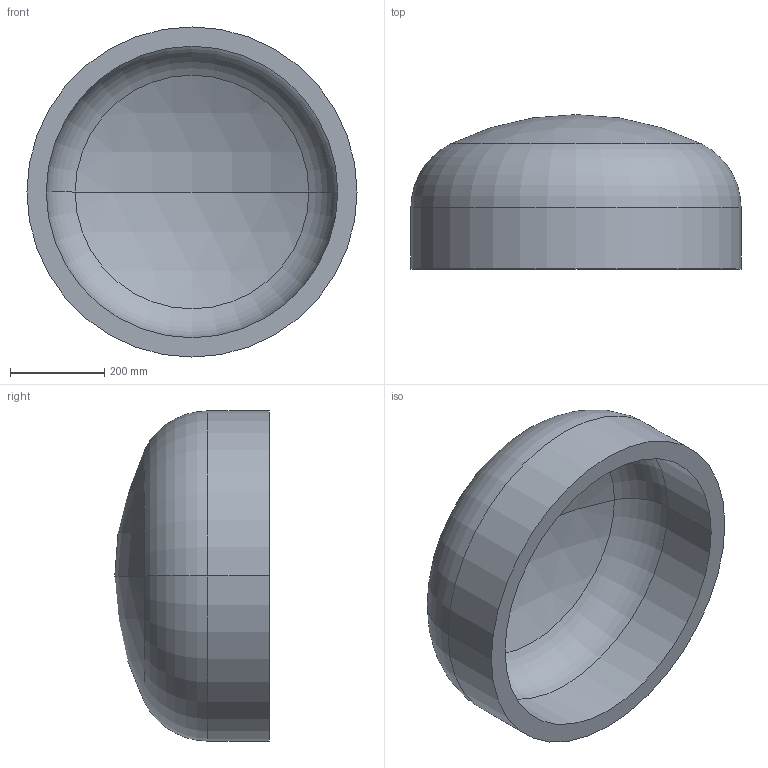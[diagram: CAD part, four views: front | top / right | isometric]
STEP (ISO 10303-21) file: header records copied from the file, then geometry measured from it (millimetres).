
FILE_DESCRIPTION (( 'STEP AP203' ), '1' );
FILE_NAME ('DIN 28013 Korbbogenform_-_Boden DIN 28013 - 700 x 130 - I - s=41.step', '2016-07-01T08:07:44', ( '' ), ( '' ), 'SwSTEP 2.0', 'SolidWorks 2013', '' );
FILE_SCHEMA (( 'CONFIG_CONTROL_DESIGN' ));
Length unit declared in the file: millimetre
Products named in the file (1): DIN 28013 Korbbogenform_-_Boden DIN 28013 - 700 x 130 - I - s=41
Bounding box: 700 x 327.39 x 700 mm (x, y, z)
Volume: 31399436.4 mm3; surface area: 1620082.9 mm2
Topology: 1 solids, 1 shells, 13 faces, 24 edges, 14 vertices
Faces by surface type: torus 4, cylinder 4, sphere 4, plane 1
Entity records: 407 total; most frequent: DIRECTION 72, CARTESIAN_POINT 52, ORIENTED_EDGE 48, AXIS2_PLACEMENT_3D 34, EDGE_CURVE 24, CIRCLE 20, VERTEX_POINT 14, EDGE_LOOP 14
